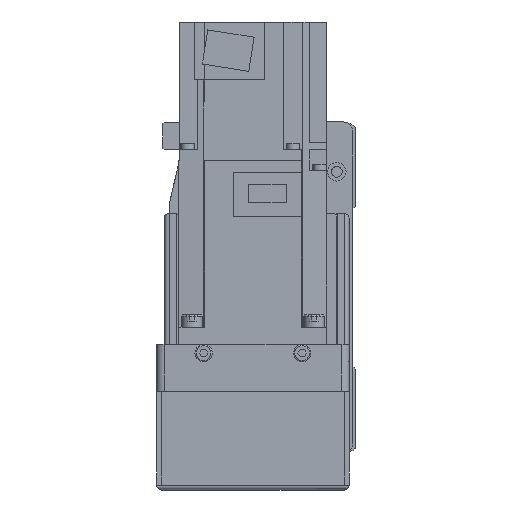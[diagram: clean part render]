
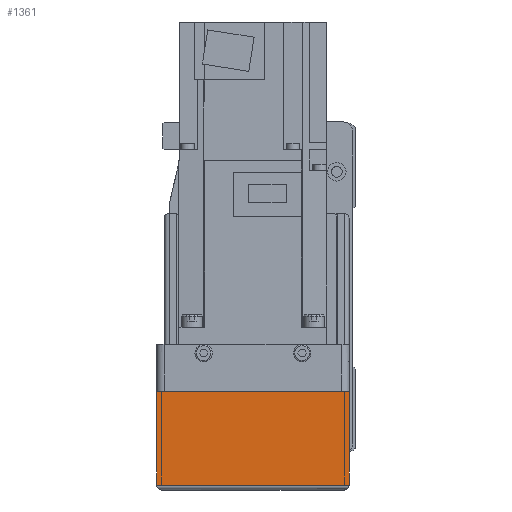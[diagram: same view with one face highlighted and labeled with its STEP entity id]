
A CAD part, left-side view. The second image highlights one B-rep face of the part: STEP entity #1361.
In plain terms, the highlighted planar face has unit normal (-1, 0, 0).
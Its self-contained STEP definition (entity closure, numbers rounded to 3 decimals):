
#1361 = ADVANCED_FACE( '', ( #3478 ), #3479, .F. );
#3478 = FACE_OUTER_BOUND( '', #6599, .T. );
#3479 = PLANE( '', #6600 );
#6599 = EDGE_LOOP( '', ( #10408, #10409, #10410, #10411 ) );
#6600 = AXIS2_PLACEMENT_3D( '', #10412, #10413, #10414 );
#10408 = ORIENTED_EDGE( '', *, *, #18465, .F. );
#10409 = ORIENTED_EDGE( '', *, *, #17925, .F. );
#10410 = ORIENTED_EDGE( '', *, *, #18466, .T. );
#10411 = ORIENTED_EDGE( '', *, *, #18467, .F. );
#10412 = CARTESIAN_POINT( '', ( -158., 36., 7. ) );
#10413 = DIRECTION( '', ( 1., 0., 0. ) );
#10414 = DIRECTION( '', ( 0., 0., -1. ) );
#17925 = EDGE_CURVE( '', #21327, #21329, #21330, .T. );
#18465 = EDGE_CURVE( '', #21329, #22273, #22274, .T. );
#18466 = EDGE_CURVE( '', #21327, #22275, #22276, .T. );
#18467 = EDGE_CURVE( '', #22273, #22275, #22277, .T. );
#21327 = VERTEX_POINT( '', #26338 );
#21329 = VERTEX_POINT( '', #26341 );
#21330 = LINE( '', #26342, #26343 );
#22273 = VERTEX_POINT( '', #27641 );
#22274 = LINE( '', #27642, #27643 );
#22275 = VERTEX_POINT( '', #27644 );
#22276 = LINE( '', #27645, #27646 );
#22277 = LINE( '', #27647, #27648 );
#26338 = CARTESIAN_POINT( '', ( -158., 39., -50. ) );
#26341 = CARTESIAN_POINT( '', ( -158., 39., -12.1 ) );
#26342 = CARTESIAN_POINT( '', ( -158., 39., -50. ) );
#26343 = VECTOR( '', #33247, 1000. );
#27641 = CARTESIAN_POINT( '', ( -158., -39., -12.1 ) );
#27642 = CARTESIAN_POINT( '', ( -158., 50., -12.1 ) );
#27643 = VECTOR( '', #33958, 1000. );
#27644 = CARTESIAN_POINT( '', ( -158., -39., -50. ) );
#27645 = CARTESIAN_POINT( '', ( -158., 40., -50. ) );
#27646 = VECTOR( '', #33959, 1000. );
#27647 = CARTESIAN_POINT( '', ( -158., -39., -12.1 ) );
#27648 = VECTOR( '', #33960, 1000. );
#33247 = DIRECTION( '', ( 0., 0., 1. ) );
#33958 = DIRECTION( '', ( 0., -1., 0. ) );
#33959 = DIRECTION( '', ( 0., -1., 0. ) );
#33960 = DIRECTION( '', ( 0., 0., -1. ) );
